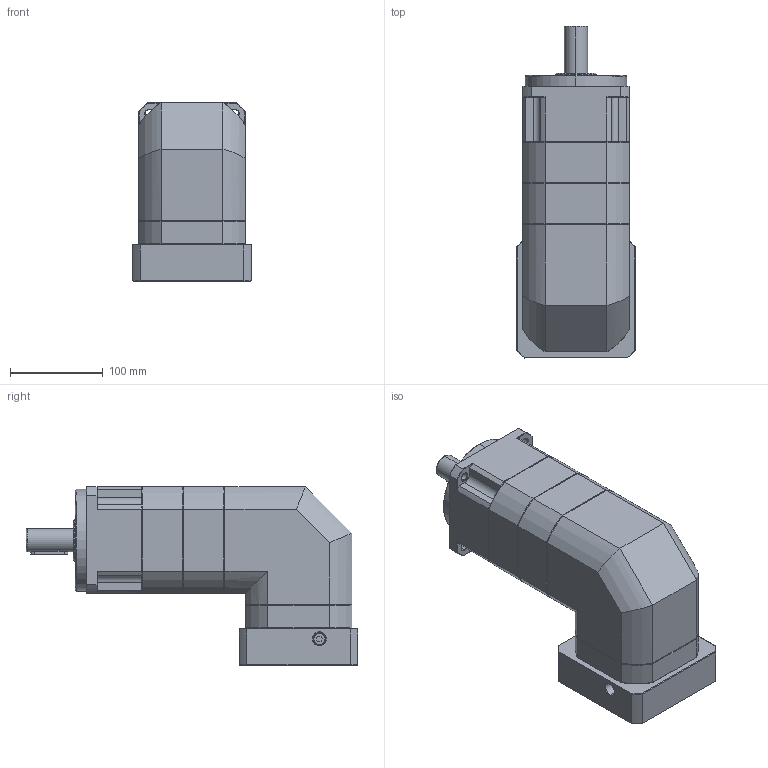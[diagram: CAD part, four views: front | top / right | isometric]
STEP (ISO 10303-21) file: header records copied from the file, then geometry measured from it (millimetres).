
FILE_DESCRIPTION (( 'STEP AP214' ), '1' );
FILE_NAME ('ZPBR115-D25-L3-P1-24-110-145-M8.step', '2024-06-29T08:03:46', ( 'Windows 蚚誧' ), ( 'Organization' ), 'SwSTEP 2.0', 'SolidWorks 2016', '' );
FILE_SCHEMA (( 'AUTOMOTIVE_DESIGN' ));
Length unit declared in the file: millimetre
Products named in the file (1): ZPBR115-D25-L3-P1-24-110-145-M8
Bounding box: 128 x 358 x 192.2 mm (x, y, z)
Surface area: 230428 mm2 (no closed solid volume)
Topology: 0 solids, 29 shells, 1867 faces, 5006 edges, 3199 vertices
Faces by surface type: plane 953, bspline 381, cone 294, cylinder 239
Full cylindrical faces by diameter (mm): 10.2 x1
Entity records: 100192 total; most frequent: CARTESIAN_POINT 49253, ORIENTED_EDGE 9982, DIRECTION 7679, EDGE_CURVE 5000, VECTOR 3219, LINE 3219, VERTEX_POINT 3197, AXIS2_PLACEMENT_3D 2230
